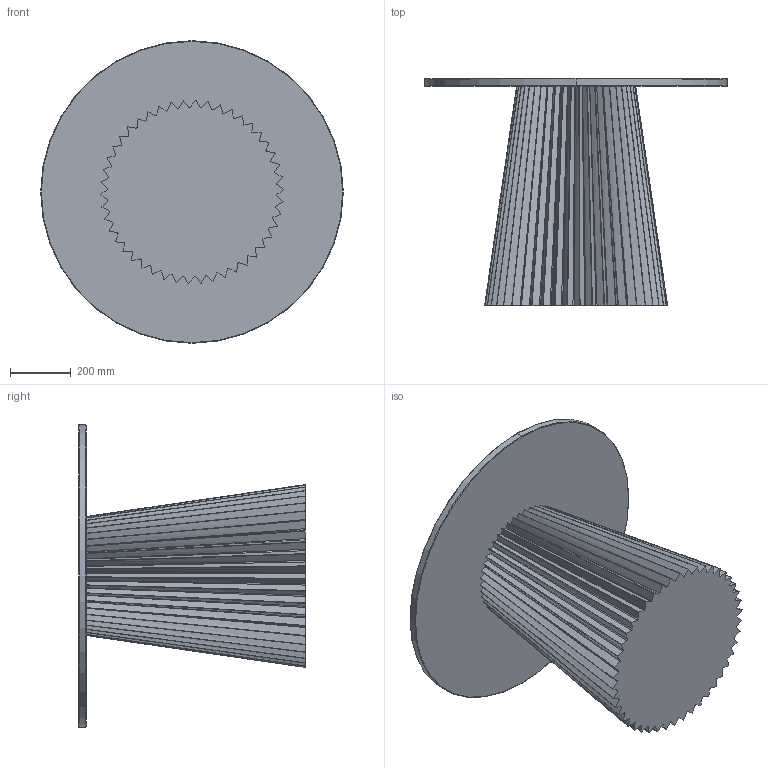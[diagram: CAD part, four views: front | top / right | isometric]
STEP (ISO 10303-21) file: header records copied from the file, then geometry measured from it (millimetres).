
FILE_DESCRIPTION (( 'STEP AP203' ), '1' );
FILE_NAME ('Flute table (750H x 1000D).STEP', '2025-10-21T19:31:32', ( '' ), ( '' ), 'SwSTEP 2.0', 'SolidWorks 2024', '' );
FILE_SCHEMA (( 'CONFIG_CONTROL_DESIGN' ));
Length unit declared in the file: millimetre
Products named in the file (1): Flute table (750H x 1000D)
Bounding box: 1000 x 750 x 1000 mm (x, y, z)
Volume: 151376345.3 mm3; surface area: 3830038.5 mm2
Topology: 2 solids, 2 shells, 194 faces, 566 edges, 376 vertices
Faces by surface type: bspline 138, cone 46, torus 4, plane 4, cylinder 2
Entity records: 10367 total; most frequent: CARTESIAN_POINT 6059, ORIENTED_EDGE 1132, EDGE_CURVE 566, DIRECTION 508, VERTEX_POINT 376, B_SPLINE_CURVE_WITH_KNOTS 276, EDGE_LOOP 194, FACE_OUTER_BOUND 194
